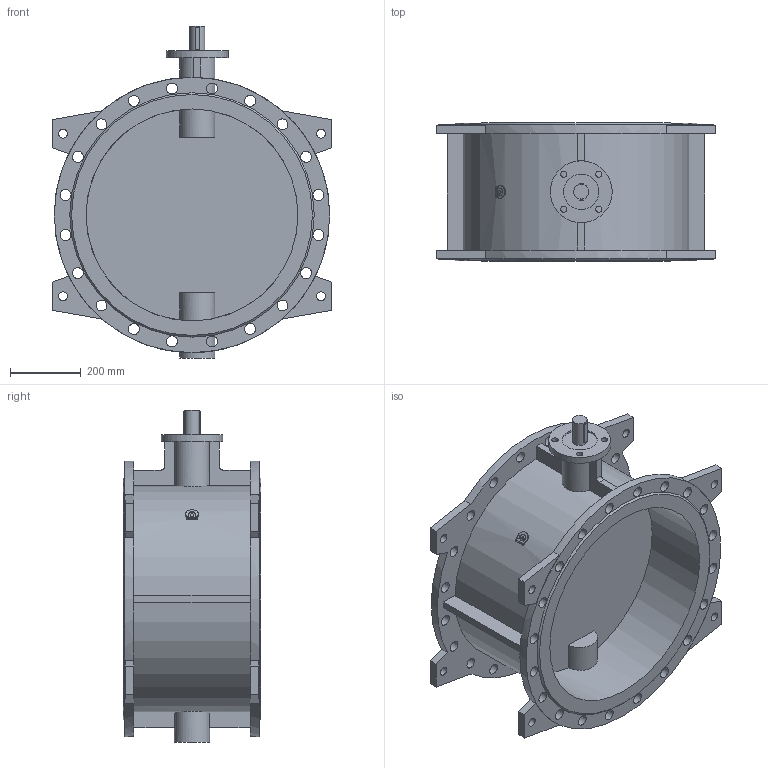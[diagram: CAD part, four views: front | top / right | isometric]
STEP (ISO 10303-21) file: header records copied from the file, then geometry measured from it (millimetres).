
FILE_DESCRIPTION(('STEP AP203'), '1');
FILE_NAME('Çàòâîð 023F.Z DN600 PN10_èñï', '', ('UNSPECIFIED'), ('UNSPECIFIED'), 'ASCON STEP Converter 1.6', 'ASCON Math Kernel', '');
FILE_SCHEMA(('CONFIG_CONTROL_DESIGN'));
Length unit declared in the file: millimetre
Bounding box: 790 x 390 x 940 mm (x, y, z)
Volume: 43638508.8 mm3; surface area: 3125754.6 mm2
Topology: 1 solids, 1 shells, 166 faces, 453 edges, 302 vertices
Faces by surface type: plane 85, cylinder 79, cone 2
Full cylindrical faces by diameter (mm): 18 x4, 25 x8, 31 x40, 42 x1, 100 x2, 175 x1, 600 x2, 780 x2
Entity records: 7610 total; most frequent: CARTESIAN_POINT 1938, DIRECTION 878, ORIENTED_EDGE 780, EDGE_CURVE 390, EDGE_LOOP 346, AXIS2_PLACEMENT_3D 340, VERTEX_POINT 302, FACE_BOUND 226
